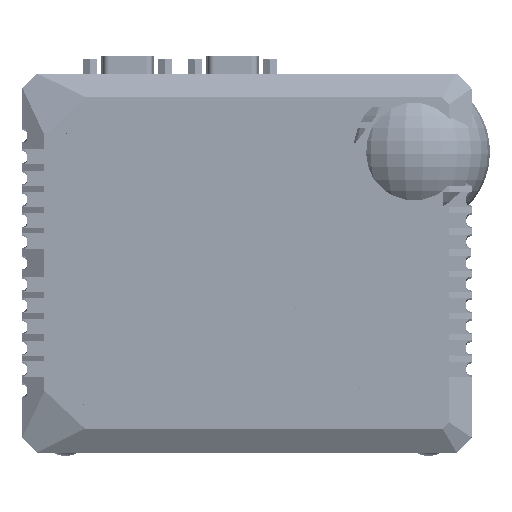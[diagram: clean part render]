
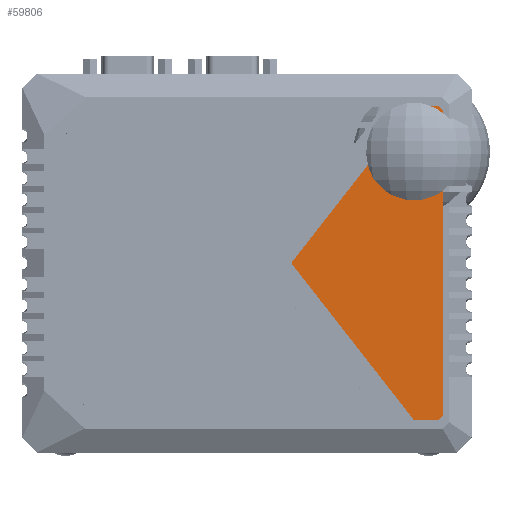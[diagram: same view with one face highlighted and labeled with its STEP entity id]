
A CAD part, top view. The second image highlights one B-rep face of the part: STEP entity #59806.
In plain terms, the highlighted planar face has unit normal (0, 0, 1).
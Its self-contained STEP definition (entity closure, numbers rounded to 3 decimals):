
#3519=CIRCLE('',#70970,0.5);
#7982=ORIENTED_EDGE('',*,*,#24904,.F.);
#7983=ORIENTED_EDGE('',*,*,#24911,.T.);
#7984=ORIENTED_EDGE('',*,*,#24899,.F.);
#7985=ORIENTED_EDGE('',*,*,#24897,.F.);
#7986=ORIENTED_EDGE('',*,*,#24894,.F.);
#7987=ORIENTED_EDGE('',*,*,#24891,.F.);
#7988=ORIENTED_EDGE('',*,*,#24910,.F.);
#7989=ORIENTED_EDGE('',*,*,#24907,.F.);
#24891=EDGE_CURVE('',#33590,#33591,#39368,.T.);
#24894=EDGE_CURVE('',#33591,#33593,#39371,.T.);
#24897=EDGE_CURVE('',#33593,#33595,#39374,.T.);
#24899=EDGE_CURVE('',#33595,#33596,#39376,.T.);
#24904=EDGE_CURVE('',#33600,#33601,#39381,.T.);
#24907=EDGE_CURVE('',#33601,#33603,#39384,.T.);
#24910=EDGE_CURVE('',#33603,#33590,#39387,.T.);
#24911=EDGE_CURVE('',#33600,#33596,#3519,.F.);
#33590=VERTEX_POINT('',#100498);
#33591=VERTEX_POINT('',#100500);
#33593=VERTEX_POINT('',#100506);
#33595=VERTEX_POINT('',#100512);
#33596=VERTEX_POINT('',#100516);
#33600=VERTEX_POINT('',#100525);
#33601=VERTEX_POINT('',#100527);
#33603=VERTEX_POINT('',#100533);
#39368=LINE('',#100499,#45106);
#39371=LINE('',#100505,#45109);
#39374=LINE('',#100511,#45112);
#39376=LINE('',#100515,#45114);
#39381=LINE('',#100526,#45119);
#39384=LINE('',#100532,#45122);
#39387=LINE('',#100537,#45125);
#45106=VECTOR('',#77969,1000.);
#45109=VECTOR('',#77974,1000.);
#45112=VECTOR('',#77979,1000.);
#45114=VECTOR('',#77983,1000.);
#45119=VECTOR('',#77990,1000.);
#45122=VECTOR('',#77995,1000.);
#45125=VECTOR('',#78000,1000.);
#50546=EDGE_LOOP('',(#7982,#7983,#7984,#7985,#7986,#7987,#7988,#7989));
#54269=FACE_BOUND('',#50546,.T.);
#57806=PLANE('',#70969);
#59806=ADVANCED_FACE('',(#54269),#57806,.F.);
#70969=AXIS2_PLACEMENT_3D('',#100538,#78001,#78002);
#70970=AXIS2_PLACEMENT_3D('',#100539,#78003,#78004);
#77969=DIRECTION('',(0.788,0.616,0.));
#77974=DIRECTION('',(0.993,-0.122,0.));
#77979=DIRECTION('',(0.616,-0.788,0.));
#77983=DIRECTION('',(-0.241,-0.97,0.));
#77990=DIRECTION('',(-1.,0.,0.));
#77995=DIRECTION('',(-0.616,0.788,0.));
#78000=DIRECTION('',(0.122,0.993,0.));
#78001=DIRECTION('',(0.,0.,-1.));
#78002=DIRECTION('',(-1.,0.,0.));
#78003=DIRECTION('',(0.,0.,-1.));
#78004=DIRECTION('',(-1.,0.,0.));
#100498=CARTESIAN_POINT('',(-37.833,-7.41,4.5));
#100499=CARTESIAN_POINT('',(-29.404,-0.821,4.5));
#100500=CARTESIAN_POINT('',(42.157,55.119,4.5));
#100505=CARTESIAN_POINT('',(42.157,55.119,4.5));
#100506=CARTESIAN_POINT('',(44.242,54.864,4.5));
#100511=CARTESIAN_POINT('',(44.242,54.864,4.5));
#100512=CARTESIAN_POINT('',(49.391,48.277,4.5));
#100515=CARTESIAN_POINT('',(49.391,48.277,4.5));
#100516=CARTESIAN_POINT('',(33.474,-15.702,4.5));
#100525=CARTESIAN_POINT('',(32.989,-16.081,4.5));
#100526=CARTESIAN_POINT('',(33.38,-16.081,4.5));
#100527=CARTESIAN_POINT('',(-32.94,-16.081,4.5));
#100532=CARTESIAN_POINT('',(-32.94,-16.081,4.5));
#100533=CARTESIAN_POINT('',(-38.089,-9.494,4.5));
#100537=CARTESIAN_POINT('',(-38.089,-9.494,4.5));
#100538=CARTESIAN_POINT('',(0.,0.,4.5));
#100539=CARTESIAN_POINT('',(32.989,-15.581,4.5));
